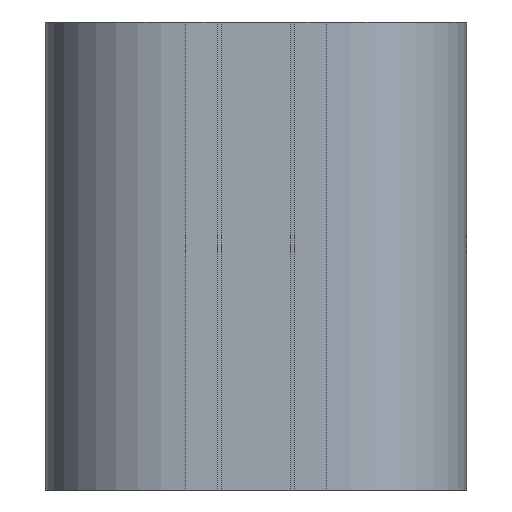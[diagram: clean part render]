
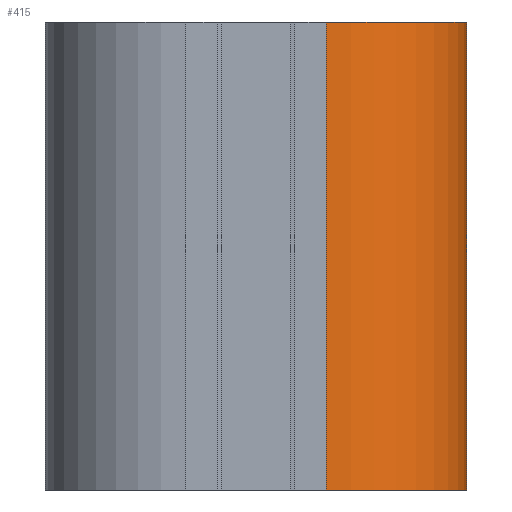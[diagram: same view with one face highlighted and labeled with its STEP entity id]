
A CAD part, front view. The second image highlights one B-rep face of the part: STEP entity #415.
In plain terms, the highlighted cylindrical face has radius 15 mm (diameter 30 mm), a partial arc.
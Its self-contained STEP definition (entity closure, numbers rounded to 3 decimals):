
#117 = DIRECTION ( 'NONE',  ( 1., 0., 0. ) ) ;
#146 = CARTESIAN_POINT ( 'NONE',  ( 7.5, -7.5, 50. ) ) ;
#232 = CARTESIAN_POINT ( 'NONE',  ( 7.5, -22.5, 0. ) ) ;
#238 = DIRECTION ( 'NONE',  ( 1., 0., 0. ) ) ;
#288 = CIRCLE ( 'NONE', #424, 15. ) ;
#415 = ADVANCED_FACE ( 'NONE', ( #1509 ), #1930, .T. ) ;
#424 = AXIS2_PLACEMENT_3D ( 'NONE', #938, #1356, #117 ) ;
#433 = DIRECTION ( 'NONE',  ( 0., 0., 1. ) ) ;
#662 = ORIENTED_EDGE ( 'NONE', *, *, #1450, .T. ) ;
#747 = DIRECTION ( 'NONE',  ( -1., 0., 0. ) ) ;
#759 = DIRECTION ( 'NONE',  ( 0., 0., -1. ) ) ;
#846 = CIRCLE ( 'NONE', #1271, 15. ) ;
#938 = CARTESIAN_POINT ( 'NONE',  ( 7.5, -7.5, 0. ) ) ;
#954 = CARTESIAN_POINT ( 'NONE',  ( 7.5, -7.5, 50. ) ) ;
#1238 = EDGE_LOOP ( 'NONE', ( #1882, #1824, #1663, #662 ) ) ;
#1240 = AXIS2_PLACEMENT_3D ( 'NONE', #954, #759, #747 ) ;
#1247 = CARTESIAN_POINT ( 'NONE',  ( 22.5, -7.5, 0. ) ) ;
#1271 = AXIS2_PLACEMENT_3D ( 'NONE', #146, #433, #238 ) ;
#1283 = VERTEX_POINT ( 'NONE', #1978 ) ;
#1356 = DIRECTION ( 'NONE',  ( 0., 0., 1. ) ) ;
#1408 = VERTEX_POINT ( 'NONE', #1247 ) ;
#1437 = CARTESIAN_POINT ( 'NONE',  ( 7.5, -22.5, 50. ) ) ;
#1450 = EDGE_CURVE ( 'NONE', #2082, #1633, #1609, .T. ) ;
#1499 = EDGE_CURVE ( 'NONE', #2082, #1283, #846, .T. ) ;
#1509 = FACE_OUTER_BOUND ( 'NONE', #1238, .T. ) ;
#1571 = EDGE_CURVE ( 'NONE', #1283, #1408, #1805, .T. ) ;
#1609 = LINE ( 'NONE', #1437, #2033 ) ;
#1633 = VERTEX_POINT ( 'NONE', #232 ) ;
#1641 = DIRECTION ( 'NONE',  ( 0., 0., -1. ) ) ;
#1654 = CARTESIAN_POINT ( 'NONE',  ( 22.5, -7.5, 50. ) ) ;
#1663 = ORIENTED_EDGE ( 'NONE', *, *, #1499, .F. ) ;
#1671 = VECTOR ( 'NONE', #2471, 1000. ) ;
#1805 = LINE ( 'NONE', #1654, #1671 ) ;
#1824 = ORIENTED_EDGE ( 'NONE', *, *, #1571, .F. ) ;
#1882 = ORIENTED_EDGE ( 'NONE', *, *, #2190, .T. ) ;
#1930 = CYLINDRICAL_SURFACE ( 'NONE', #1240, 15. ) ;
#1978 = CARTESIAN_POINT ( 'NONE',  ( 22.5, -7.5, 50. ) ) ;
#2033 = VECTOR ( 'NONE', #1641, 1000. ) ;
#2062 = CARTESIAN_POINT ( 'NONE',  ( 7.5, -22.5, 50. ) ) ;
#2082 = VERTEX_POINT ( 'NONE', #2062 ) ;
#2190 = EDGE_CURVE ( 'NONE', #1633, #1408, #288, .T. ) ;
#2471 = DIRECTION ( 'NONE',  ( 0., 0., -1. ) ) ;
